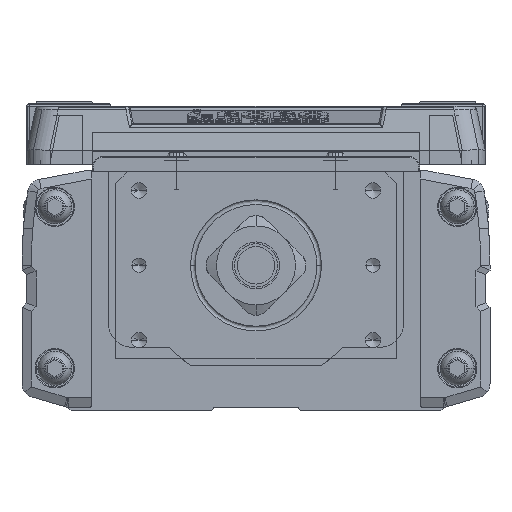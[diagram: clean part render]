
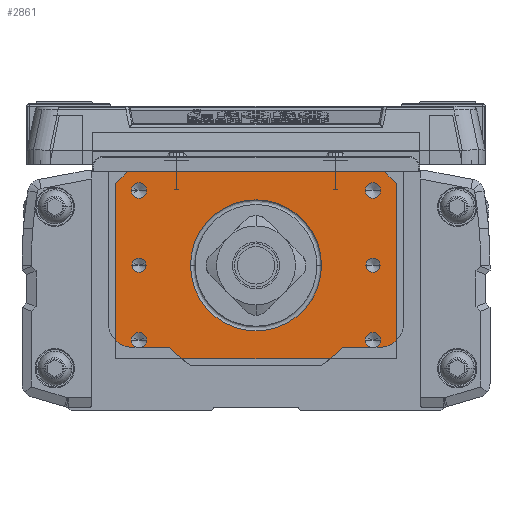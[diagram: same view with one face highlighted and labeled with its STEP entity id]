
A CAD part, left-side view. The second image highlights one B-rep face of the part: STEP entity #2861.
In plain terms, the highlighted planar face has unit normal (-1, 0, 0).
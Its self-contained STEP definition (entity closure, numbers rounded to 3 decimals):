
#2861=ADVANCED_FACE('',(#7259,#7260,#7261,#7262,#7263,#7264,#7265,#7266),#7267,.T.);
#7259=FACE_BOUND('',#13604,.T.);
#7260=FACE_BOUND('',#13605,.T.);
#7261=FACE_BOUND('',#13606,.T.);
#7262=FACE_BOUND('',#13607,.T.);
#7263=FACE_BOUND('',#13608,.T.);
#7264=FACE_BOUND('',#13609,.T.);
#7265=FACE_BOUND('',#13610,.T.);
#7266=FACE_OUTER_BOUND('',#13611,.T.);
#7267=PLANE('',#13612);
#13604=EDGE_LOOP('',(#21919,#21920));
#13605=EDGE_LOOP('',(#21921,#21922));
#13606=EDGE_LOOP('',(#21923,#21924));
#13607=EDGE_LOOP('',(#21925,#21926));
#13608=EDGE_LOOP('',(#21927,#21928));
#13609=EDGE_LOOP('',(#21929,#21930));
#13610=EDGE_LOOP('',(#21931,#21932,#21933));
#13611=EDGE_LOOP('',(#21934,#21935,#21936,#21937,#21938,#21939));
#13612=AXIS2_PLACEMENT_3D('',#21940,#21941,#21942);
#21919=ORIENTED_EDGE('',*,*,#38783,.T.);
#21920=ORIENTED_EDGE('',*,*,#38784,.T.);
#21921=ORIENTED_EDGE('',*,*,#38567,.T.);
#21922=ORIENTED_EDGE('',*,*,#38785,.T.);
#21923=ORIENTED_EDGE('',*,*,#38786,.T.);
#21924=ORIENTED_EDGE('',*,*,#38787,.T.);
#21925=ORIENTED_EDGE('',*,*,#38788,.T.);
#21926=ORIENTED_EDGE('',*,*,#38469,.T.);
#21927=ORIENTED_EDGE('',*,*,#38789,.T.);
#21928=ORIENTED_EDGE('',*,*,#37942,.T.);
#21929=ORIENTED_EDGE('',*,*,#38790,.T.);
#21930=ORIENTED_EDGE('',*,*,#38779,.T.);
#21931=ORIENTED_EDGE('',*,*,#38791,.T.);
#21932=ORIENTED_EDGE('',*,*,#38792,.T.);
#21933=ORIENTED_EDGE('',*,*,#38793,.T.);
#21934=ORIENTED_EDGE('',*,*,#38794,.F.);
#21935=ORIENTED_EDGE('',*,*,#38795,.F.);
#21936=ORIENTED_EDGE('',*,*,#38796,.T.);
#21937=ORIENTED_EDGE('',*,*,#37762,.T.);
#21938=ORIENTED_EDGE('',*,*,#38797,.F.);
#21939=ORIENTED_EDGE('',*,*,#38798,.T.);
#21940=CARTESIAN_POINT('',(-580.,0.,-20.));
#21941=DIRECTION('',(-1.0,0.,0.));
#21942=DIRECTION('',(0.,-1.0,0.));
#37762=EDGE_CURVE('',#45368,#45365,#45369,.T.);
#37942=EDGE_CURVE('',#45689,#45687,#45690,.T.);
#38469=EDGE_CURVE('',#46611,#46608,#46612,.T.);
#38567=EDGE_CURVE('',#46772,#46777,#46779,.T.);
#38779=EDGE_CURVE('',#47124,#47121,#47125,.T.);
#38783=EDGE_CURVE('',#47130,#47131,#47132,.T.);
#38784=EDGE_CURVE('',#47131,#47130,#47133,.T.);
#38785=EDGE_CURVE('',#46777,#46772,#47134,.T.);
#38786=EDGE_CURVE('',#47135,#47136,#47137,.T.);
#38787=EDGE_CURVE('',#47136,#47135,#47138,.T.);
#38788=EDGE_CURVE('',#46608,#46611,#47139,.T.);
#38789=EDGE_CURVE('',#45687,#45689,#47140,.T.);
#38790=EDGE_CURVE('',#47121,#47124,#47141,.T.);
#38791=EDGE_CURVE('',#47142,#47143,#47144,.T.);
#38792=EDGE_CURVE('',#47143,#47145,#47146,.T.);
#38793=EDGE_CURVE('',#47145,#47142,#47147,.T.);
#38794=EDGE_CURVE('',#47148,#47149,#47150,.T.);
#38795=EDGE_CURVE('',#47151,#47148,#47152,.T.);
#38796=EDGE_CURVE('',#47151,#45368,#47153,.T.);
#38797=EDGE_CURVE('',#47154,#45365,#47155,.T.);
#38798=EDGE_CURVE('',#47154,#47149,#47156,.T.);
#45365=VERTEX_POINT('',#56103);
#45368=VERTEX_POINT('',#56107);
#45369=LINE('',#56108,#56109);
#45687=VERTEX_POINT('',#56566);
#45689=VERTEX_POINT('',#56569);
#45690=CIRCLE('',#56570,1.65);
#46608=VERTEX_POINT('',#57903);
#46611=VERTEX_POINT('',#57907);
#46612=CIRCLE('',#57908,1.65);
#46772=VERTEX_POINT('',#58111);
#46777=VERTEX_POINT('',#58117);
#46779=CIRCLE('',#58120,1.5);
#47121=VERTEX_POINT('',#58645);
#47124=VERTEX_POINT('',#58649);
#47125=CIRCLE('',#58650,1.65);
#47130=VERTEX_POINT('',#58656);
#47131=VERTEX_POINT('',#58657);
#47132=CIRCLE('',#58658,1.5);
#47133=CIRCLE('',#58659,1.5);
#47134=CIRCLE('',#58660,1.5);
#47135=VERTEX_POINT('',#58661);
#47136=VERTEX_POINT('',#58662);
#47137=CIRCLE('',#58663,1.65);
#47138=CIRCLE('',#58664,1.65);
#47139=CIRCLE('',#58665,1.65);
#47140=CIRCLE('',#58666,1.65);
#47141=CIRCLE('',#58667,1.65);
#47142=VERTEX_POINT('',#58668);
#47143=VERTEX_POINT('',#58669);
#47144=CIRCLE('',#58670,14.0);
#47145=VERTEX_POINT('',#58671);
#47146=CIRCLE('',#58672,14.0);
#47147=CIRCLE('',#58673,14.0);
#47148=VERTEX_POINT('',#58674);
#47149=VERTEX_POINT('',#58675);
#47150=LINE('',#58676,#58677);
#47151=VERTEX_POINT('',#58678);
#47152=LINE('',#58679,#58680);
#47153=LINE('',#58681,#58682);
#47154=VERTEX_POINT('',#58683);
#47155=LINE('',#58684,#58685);
#47156=LINE('',#58686,#58687);
#56103=CARTESIAN_POINT('',(-580.,-30.,17.5));
#56107=CARTESIAN_POINT('',(-580.,-30.,-20.));
#56108=CARTESIAN_POINT('',(-580.,-30.,-20.));
#56109=VECTOR('',#69850,10.0);
#56566=CARTESIAN_POINT('',(-580.,26.65,16.));
#56569=CARTESIAN_POINT('',(-580.,23.35,16.));
#56570=AXIS2_PLACEMENT_3D('',#70117,#70118,#70119);
#57903=CARTESIAN_POINT('',(-580.,26.65,-16.));
#57907=CARTESIAN_POINT('',(-580.,23.35,-16.));
#57908=AXIS2_PLACEMENT_3D('',#70860,#70861,#70862);
#58111=CARTESIAN_POINT('',(-580.,26.5,0.));
#58117=CARTESIAN_POINT('',(-580.,23.5,0.));
#58120=AXIS2_PLACEMENT_3D('',#71004,#71005,#71006);
#58645=CARTESIAN_POINT('',(-580.,-26.65,16.));
#58649=CARTESIAN_POINT('',(-580.,-23.35,16.));
#58650=AXIS2_PLACEMENT_3D('',#71291,#71292,#71293);
#58656=CARTESIAN_POINT('',(-580.,-26.5,0.));
#58657=CARTESIAN_POINT('',(-580.,-23.5,0.));
#58658=AXIS2_PLACEMENT_3D('',#71298,#71299,#71300);
#58659=AXIS2_PLACEMENT_3D('',#71301,#71302,#71303);
#58660=AXIS2_PLACEMENT_3D('',#71304,#71305,#71306);
#58661=CARTESIAN_POINT('',(-580.,-26.65,-16.));
#58662=CARTESIAN_POINT('',(-580.,-23.35,-16.));
#58663=AXIS2_PLACEMENT_3D('',#71307,#71308,#71309);
#58664=AXIS2_PLACEMENT_3D('',#71310,#71311,#71312);
#58665=AXIS2_PLACEMENT_3D('',#71313,#71314,#71315);
#58666=AXIS2_PLACEMENT_3D('',#71316,#71317,#71318);
#58667=AXIS2_PLACEMENT_3D('',#71319,#71320,#71321);
#58668=CARTESIAN_POINT('',(-580.,0.,-14.));
#58669=CARTESIAN_POINT('',(-580.,14.,0.));
#58670=AXIS2_PLACEMENT_3D('',#71322,#71323,#71324);
#58671=CARTESIAN_POINT('',(-580.,-14.,0.));
#58672=AXIS2_PLACEMENT_3D('',#71325,#71326,#71327);
#58673=AXIS2_PLACEMENT_3D('',#71328,#71329,#71330);
#58674=CARTESIAN_POINT('',(-580.,30.,17.5));
#58675=CARTESIAN_POINT('',(-580.,27.5,20.));
#58676=CARTESIAN_POINT('',(-580.,31.25,16.25));
#58677=VECTOR('',#71331,10.);
#58678=CARTESIAN_POINT('',(-580.,30.,-20.));
#58679=CARTESIAN_POINT('',(-580.,30.,-20.));
#58680=VECTOR('',#71332,10.0);
#58681=CARTESIAN_POINT('',(-580.,30.,-20.));
#58682=VECTOR('',#71333,10.0);
#58683=CARTESIAN_POINT('',(-580.,-27.5,20.));
#58684=CARTESIAN_POINT('',(-580.,-31.25,16.25));
#58685=VECTOR('',#71334,10.);
#58686=CARTESIAN_POINT('',(-580.,30.,20.));
#58687=VECTOR('',#71335,10.0);
#69850=DIRECTION('',(0.,0.,1.0));
#70117=CARTESIAN_POINT('',(-580.,25.,16.));
#70118=DIRECTION('',(1.0,0.,0.));
#70119=DIRECTION('',(0.,1.0,0.));
#70860=CARTESIAN_POINT('',(-580.,25.,-16.));
#70861=DIRECTION('',(1.0,0.,0.));
#70862=DIRECTION('',(0.,1.0,0.));
#71004=CARTESIAN_POINT('',(-580.,25.,0.));
#71005=DIRECTION('',(1.0,0.,0.));
#71006=DIRECTION('',(0.,1.0,0.));
#71291=CARTESIAN_POINT('',(-580.,-25.,16.));
#71292=DIRECTION('',(1.0,0.,0.));
#71293=DIRECTION('',(0.,-1.0,0.));
#71298=CARTESIAN_POINT('',(-580.,-25.,0.));
#71299=DIRECTION('',(1.0,0.,0.));
#71300=DIRECTION('',(0.,-1.0,0.));
#71301=CARTESIAN_POINT('',(-580.,-25.,0.));
#71302=DIRECTION('',(1.0,0.,0.));
#71303=DIRECTION('',(0.,-1.0,0.));
#71304=CARTESIAN_POINT('',(-580.,25.,0.));
#71305=DIRECTION('',(1.0,0.,0.));
#71306=DIRECTION('',(0.,1.0,0.));
#71307=CARTESIAN_POINT('',(-580.,-25.,-16.));
#71308=DIRECTION('',(1.0,0.,0.));
#71309=DIRECTION('',(0.,-1.0,0.));
#71310=CARTESIAN_POINT('',(-580.,-25.,-16.));
#71311=DIRECTION('',(1.0,0.,0.));
#71312=DIRECTION('',(0.,-1.0,0.));
#71313=CARTESIAN_POINT('',(-580.,25.,-16.));
#71314=DIRECTION('',(1.0,0.,0.));
#71315=DIRECTION('',(0.,1.0,0.));
#71316=CARTESIAN_POINT('',(-580.,25.,16.));
#71317=DIRECTION('',(1.0,0.,0.));
#71318=DIRECTION('',(0.,1.0,0.));
#71319=CARTESIAN_POINT('',(-580.,-25.,16.));
#71320=DIRECTION('',(1.0,0.,0.));
#71321=DIRECTION('',(0.,-1.0,0.));
#71322=CARTESIAN_POINT('',(-580.,0.,0.));
#71323=DIRECTION('',(1.0,0.,0.));
#71324=DIRECTION('',(0.,0.,1.0));
#71325=CARTESIAN_POINT('',(-580.,0.,0.));
#71326=DIRECTION('',(1.0,0.,0.));
#71327=DIRECTION('',(0.,0.,1.0));
#71328=CARTESIAN_POINT('',(-580.,0.,0.));
#71329=DIRECTION('',(1.0,0.,0.));
#71330=DIRECTION('',(0.,0.,1.0));
#71331=DIRECTION('',(0.,-0.707,0.707));
#71332=DIRECTION('',(0.,0.,1.0));
#71333=DIRECTION('',(0.,-1.0,0.));
#71334=DIRECTION('',(0.0,-0.707,-0.707));
#71335=DIRECTION('',(0.,1.0,0.));
